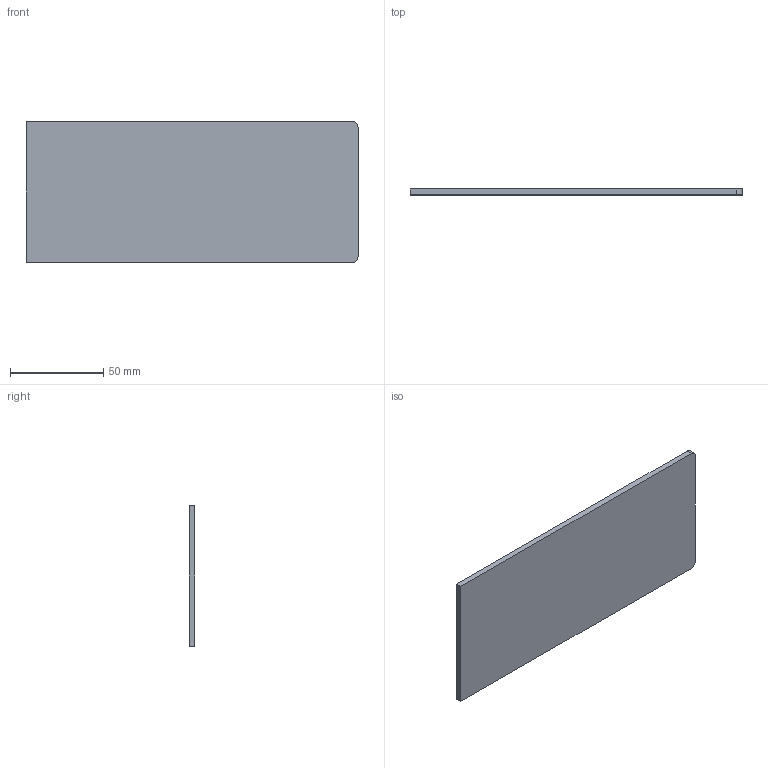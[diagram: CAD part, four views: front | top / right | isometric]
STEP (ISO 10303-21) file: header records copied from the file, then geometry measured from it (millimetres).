
FILE_DESCRIPTION (( 'STEP AP203' ), '1' );
FILE_NAME ('269-18-319.STEP', '2020-03-02T22:35:37', ( '' ), ( '' ), 'SwSTEP 2.0', 'SolidWorks 2017', '' );
FILE_SCHEMA (( 'CONFIG_CONTROL_DESIGN' ));
Length unit declared in the file: inch
Products named in the file (1): 269-18-319
Bounding box: 177.8 x 3.17 x 75.44 mm (x, y, z)
Volume: 42572.1 mm3; surface area: 28416.5 mm2
Topology: 1 solids, 1 shells, 8 faces, 18 edges, 12 vertices
Faces by surface type: plane 6, cylinder 2
Entity records: 305 total; most frequent: DIRECTION 40, CARTESIAN_POINT 39, ORIENTED_EDGE 36, EDGE_CURVE 18, LINE 14, VECTOR 14, AXIS2_PLACEMENT_3D 13, VERTEX_POINT 12
